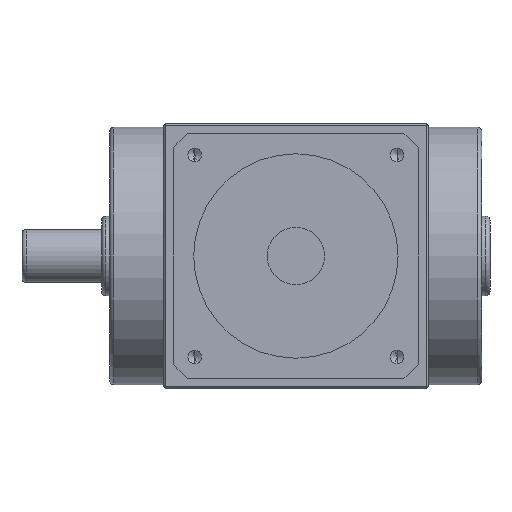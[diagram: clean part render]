
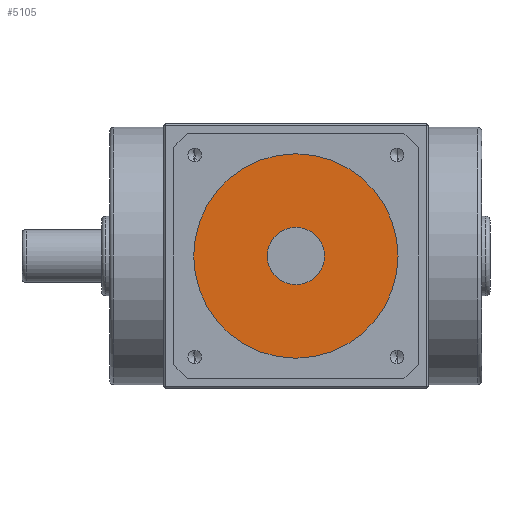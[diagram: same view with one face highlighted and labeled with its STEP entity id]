
A CAD part, front view. The second image highlights one B-rep face of the part: STEP entity #5105.
In plain terms, the highlighted planar face has unit normal (0, -1, 0).
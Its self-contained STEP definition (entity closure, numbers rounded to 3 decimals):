
#419 = DIRECTION ( 'NONE',  ( 0., 1., 0. ) ) ;
#665 = CARTESIAN_POINT ( 'NONE',  ( 0., -134., 25. ) ) ;
#1067 = CARTESIAN_POINT ( 'NONE',  ( 0., -134., 0. ) ) ;
#1200 = CIRCLE ( 'NONE', #1680, 25. ) ;
#1680 = AXIS2_PLACEMENT_3D ( 'NONE', #6503, #7205, #5759 ) ;
#1779 = DIRECTION ( 'NONE',  ( 0., 1., 0. ) ) ;
#2340 = VERTEX_POINT ( 'NONE', #5579 ) ;
#2869 = CIRCLE ( 'NONE', #8624, 7. ) ;
#3026 = CARTESIAN_POINT ( 'NONE',  ( 0., -134., 0. ) ) ;
#3202 = ORIENTED_EDGE ( 'NONE', *, *, #8278, .T. ) ;
#3255 = EDGE_CURVE ( 'NONE', #4047, #3848, #1200, .T. ) ;
#3360 = EDGE_CURVE ( 'NONE', #2340, #7958, #4613, .T. ) ;
#3439 = AXIS2_PLACEMENT_3D ( 'NONE', #8668, #7841, #4356 ) ;
#3605 = PLANE ( 'NONE',  #3439 ) ;
#3749 = DIRECTION ( 'NONE',  ( 0., 0., -1. ) ) ;
#3848 = VERTEX_POINT ( 'NONE', #665 ) ;
#4047 = VERTEX_POINT ( 'NONE', #8919 ) ;
#4356 = DIRECTION ( 'NONE',  ( 0., 0., -1. ) ) ;
#4613 = CIRCLE ( 'NONE', #7870, 7. ) ;
#4623 = EDGE_LOOP ( 'NONE', ( #6517, #3202 ) ) ;
#5105 = ADVANCED_FACE ( 'NONE', ( #7634, #6358 ), #3605, .T. ) ;
#5179 = CIRCLE ( 'NONE', #5466, 25. ) ;
#5306 = EDGE_LOOP ( 'NONE', ( #7269, #6804 ) ) ;
#5466 = AXIS2_PLACEMENT_3D ( 'NONE', #3026, #8101, #3749 ) ;
#5579 = CARTESIAN_POINT ( 'NONE',  ( 0., -134., -7. ) ) ;
#5759 = DIRECTION ( 'NONE',  ( 0., 0., -1. ) ) ;
#5848 = EDGE_CURVE ( 'NONE', #3848, #4047, #5179, .T. ) ;
#6358 = FACE_BOUND ( 'NONE', #4623, .T. ) ;
#6503 = CARTESIAN_POINT ( 'NONE',  ( 0., -134., 0. ) ) ;
#6517 = ORIENTED_EDGE ( 'NONE', *, *, #3360, .T. ) ;
#6804 = ORIENTED_EDGE ( 'NONE', *, *, #5848, .T. ) ;
#7015 = DIRECTION ( 'NONE',  ( 0., 0., -1. ) ) ;
#7180 = CARTESIAN_POINT ( 'NONE',  ( 0., -134., 7. ) ) ;
#7205 = DIRECTION ( 'NONE',  ( 0., -1., 0. ) ) ;
#7269 = ORIENTED_EDGE ( 'NONE', *, *, #3255, .T. ) ;
#7634 = FACE_OUTER_BOUND ( 'NONE', #5306, .T. ) ;
#7841 = DIRECTION ( 'NONE',  ( 0., -1., 0. ) ) ;
#7870 = AXIS2_PLACEMENT_3D ( 'NONE', #8257, #1779, #7015 ) ;
#7958 = VERTEX_POINT ( 'NONE', #7180 ) ;
#8101 = DIRECTION ( 'NONE',  ( 0., -1., 0. ) ) ;
#8257 = CARTESIAN_POINT ( 'NONE',  ( 0., -134., 0. ) ) ;
#8278 = EDGE_CURVE ( 'NONE', #7958, #2340, #2869, .T. ) ;
#8624 = AXIS2_PLACEMENT_3D ( 'NONE', #1067, #419, #9000 ) ;
#8668 = CARTESIAN_POINT ( 'NONE',  ( 0., -134., 0. ) ) ;
#8919 = CARTESIAN_POINT ( 'NONE',  ( 0., -134., -25. ) ) ;
#9000 = DIRECTION ( 'NONE',  ( 0., 0., -1. ) ) ;
